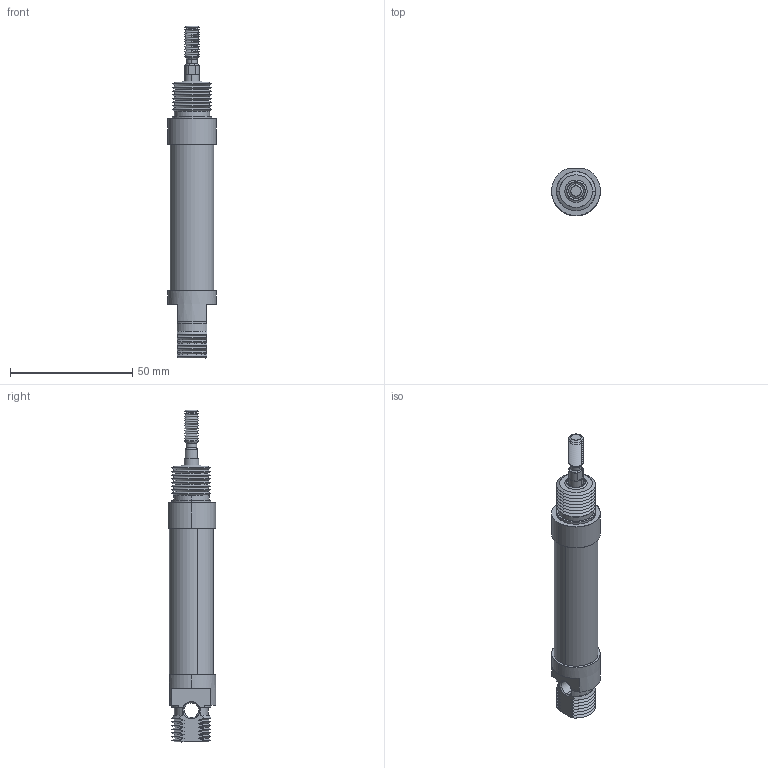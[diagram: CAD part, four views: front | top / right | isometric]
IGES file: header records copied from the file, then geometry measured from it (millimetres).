
Start section: SolidWorks IGES file using analytic representation for surfaces
Global section: file name: c:\CATALO3D\IGS\DSA16.0025.IGS; native system: SolidWorks 2005 by SolidWorks Corporation; preprocessor: SolidWorks 2005 by SolidWorks Corporation; author: tania; date: 051124.120127; units: millimetre
Bounding box: 20 x 19.5 x 136 mm (x, y, z)
Surface area: 16493.8 mm2 (no closed solid volume)
Topology: 0 solids, 0 shells, 304 faces, 6895 edges, 8279 vertices
Faces by surface type: revolution 224, bspline 80
